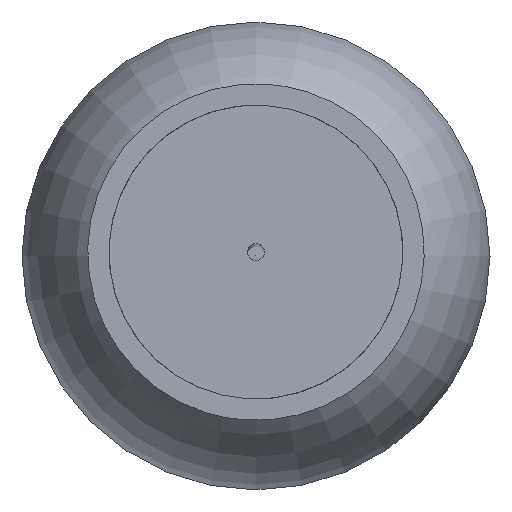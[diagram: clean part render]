
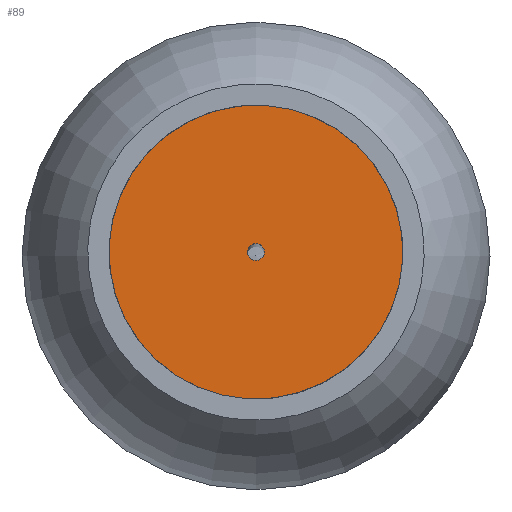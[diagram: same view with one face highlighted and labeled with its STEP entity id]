
A CAD part, top view. The second image highlights one B-rep face of the part: STEP entity #89.
In plain terms, the highlighted free-form (B-spline) face has degree [1, 1] with [2, 2] control points.
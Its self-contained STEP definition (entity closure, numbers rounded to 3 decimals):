
#89=ADVANCED_FACE('0:92',(#110,#111),#112,.F.);
#110=FACE_OUTER_BOUND('',#348,.T.);
#111=FACE_BOUND('',#349,.T.);
#112=B_SPLINE_SURFACE_WITH_KNOTS('',1,1,((#350,#351),(#352,#353)),.UNSPECIFIED.,.F.,.F.,.F.,(2,2),(2,2),(0.0,1.0),(0.0,1.0),.UNSPECIFIED.);
#348=EDGE_LOOP('',(#4815));
#349=EDGE_LOOP('',(#4816));
#350=CARTESIAN_POINT('',(60.638,693.709,1064.076));
#351=CARTESIAN_POINT('',(-79.018,693.709,1064.076));
#352=CARTESIAN_POINT('',(60.638,554.053,1064.076));
#353=CARTESIAN_POINT('',(-79.018,554.053,1064.076));
#4815=ORIENTED_EDGE('',*,*,#4857,.F.);
#4816=ORIENTED_EDGE('',*,*,#4855,.F.);
#4855=EDGE_CURVE('0:104',#4884,#4884,#4885,.T.);
#4857=EDGE_CURVE('0:98',#4888,#4888,#4889,.T.);
#4884=VERTEX_POINT('',#4940);
#4885=CIRCLE('',#4941,4.0);
#4888=VERTEX_POINT('',#4944);
#4889=CIRCLE('',#4945,69.0);
#4940=CARTESIAN_POINT('',(-9.439,619.889,1064.076));
#4941=AXIS2_PLACEMENT_3D('',#5579,#5580,#5581);
#4944=CARTESIAN_POINT('',(-13.48,555.015,1064.076));
#4945=AXIS2_PLACEMENT_3D('',#5585,#5586,#5587);
#5579=CARTESIAN_POINT('',(-9.19,623.881,1064.076));
#5580=DIRECTION('',(0.,0.,1.0));
#5581=DIRECTION('',(-0.062,-0.998,0.));
#5585=CARTESIAN_POINT('',(-9.19,623.881,1064.076));
#5586=DIRECTION('',(0.,0.,-1.0));
#5587=DIRECTION('',(-0.062,-0.998,0.));
